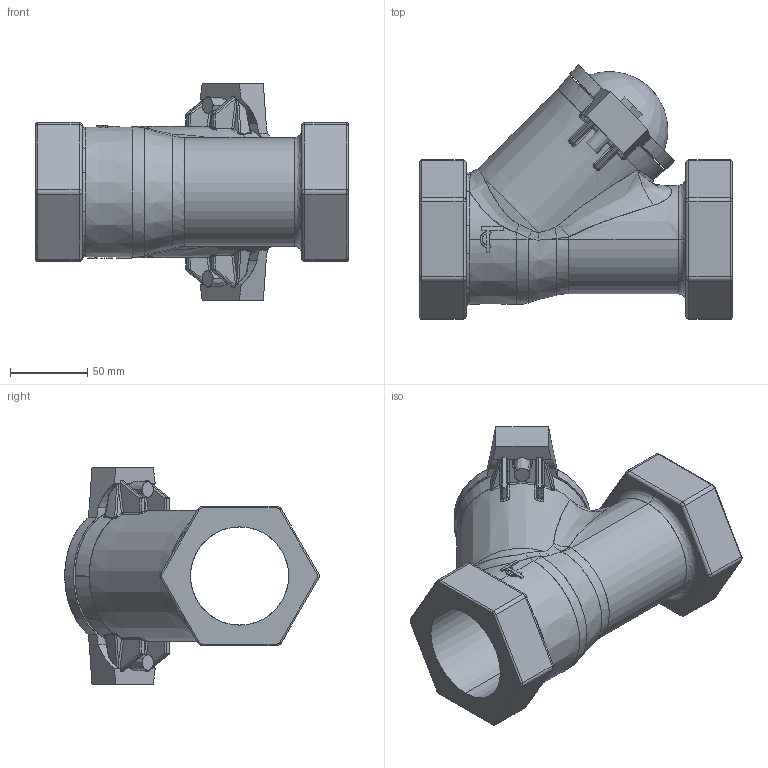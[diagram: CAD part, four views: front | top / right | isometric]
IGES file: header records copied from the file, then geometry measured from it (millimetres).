
Start section: SolidWorks IGES file using analytic representation for surfaces
Global section: file name: D:\part\3D Projects\CBL X141\DN 65\DN65.IGS; native system: SolidWorks 2009; preprocessor: SolidWorks 2009; author: zhixin.zheng; date: 100514.151921; units: millimetre
Bounding box: 202 x 164.67 x 140 mm (x, y, z)
Surface area: 140524.3 mm2 (no closed solid volume)
Topology: 0 solids, 0 shells, 458 faces, 3711 edges, 3702 vertices
Faces by surface type: bspline 296, revolution 162
